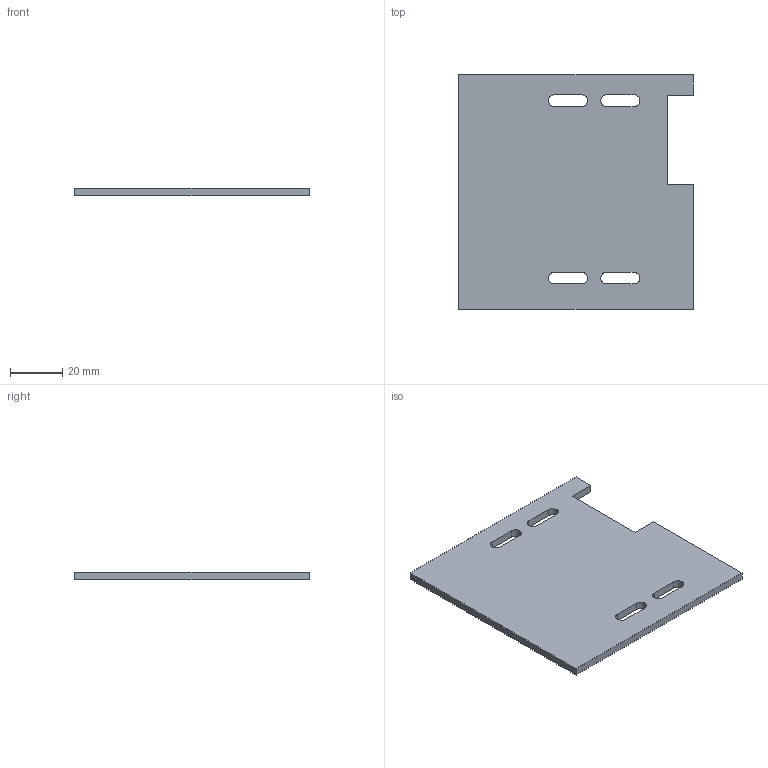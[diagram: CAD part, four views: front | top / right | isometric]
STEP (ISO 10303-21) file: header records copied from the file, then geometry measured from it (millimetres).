
FILE_DESCRIPTION(('Open CASCADE Model'),'2;1');
FILE_NAME('Open CASCADE Shape Model','2026-10-15T18:22:08',('Author'),( 'Open CASCADE'),'Open CASCADE STEP processor 7.9','Open CASCADE 7.9' ,'Unknown');
FILE_SCHEMA(('AUTOMOTIVE_DESIGN { 1 0 10303 214 1 1 1 1 }'));
Length unit declared in the file: millimetre
Products named in the file (1): Open CASCADE STEP translator 7.9 13
Bounding box: 90 x 90 x 3 mm (x, y, z)
Volume: 22522.1 mm3; surface area: 16576.4 mm2
Topology: 1 solids, 1 shells, 26 faces, 72 edges, 48 vertices
Faces by surface type: plane 18, cylinder 8
Entity records: 1810 total; most frequent: CARTESIAN_POINT 419, DIRECTION 238, LINE 152, VECTOR 152, ORIENTED_EDGE 144, PCURVE 144, DEFINITIONAL_REPRESENTATION 144, EDGE_CURVE 72
